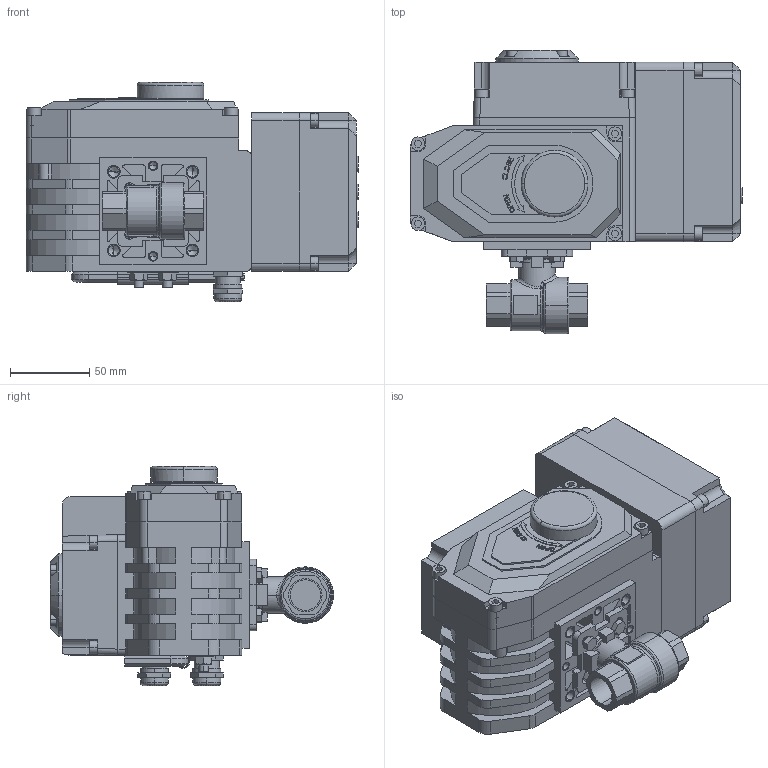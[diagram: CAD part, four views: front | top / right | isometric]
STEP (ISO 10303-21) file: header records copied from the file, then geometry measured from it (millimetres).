
FILE_DESCRIPTION((''),'2;1');
FILE_NAME('BV-21F_EAR_A_ASM','2025-03-02T',('AMD'),(''),'PRO/ENGINEER BY PARAMETRIC TECHNOLOGY CORPORATION, 2008020','PRO/ENGINEER BY PARAMETRIC TECHNOLOGY CORPORATION, 2008020','');
FILE_SCHEMA(('CONFIG_CONTROL_DESIGN'));
Length unit declared in the file: millimetre
Products named in the file (18): KORPUS_KRANA; GAIKA_KRANA; SB_KRAN_ASM; DET_1; V-11738-M5; V-11738-M4; DET_2; KREPLENIE; KLUCH; DET_3; G-5915-M6; ELECTROPRIVOD_ASM; DET_4; DET_5; DISPLAY_ASM; ELECTROPRIVOD_WITH_DISPLAY_ASM; BOLT; BV-21F_EAR_A_ASM
Assembly tree (35 placements, depth 4):
  BV-21F_EAR_A_ASM
    SB_KRAN_ASM
      KORPUS_KRANA
      GAIKA_KRANA
    ELECTROPRIVOD_WITH_DISPLAY_ASM
      ELECTROPRIVOD_ASM
        DET_1
        V-11738-M5  x8
        V-11738-M4  x4
        DET_2
        KREPLENIE
        KLUCH
        DET_3
        G-5915-M6  x2
      DISPLAY_ASM
        DET_4
        DET_5
        V-11738-M5  x4
    BOLT  x4
Bounding box: 209 x 178.25 x 138 mm (x, y, z)
Volume: 2124468.3 mm3; surface area: 247336.8 mm2
Topology: 31 solids, 69 shells, 2355 faces, 6273 edges, 4144 vertices
Faces by surface type: plane 1606, cylinder 354, extrusion 300, cone 71, torus 12, bspline 10, sphere 2
Entity records: 66150 total; most frequent: CARTESIAN_POINT 14544, ORIENTED_EDGE 11030, DIRECTION 9505, EDGE_CURVE 5557, VECTOR 4547, LINE 4247, VERTEX_POINT 3680, AXIS2_PLACEMENT_3D 2479
